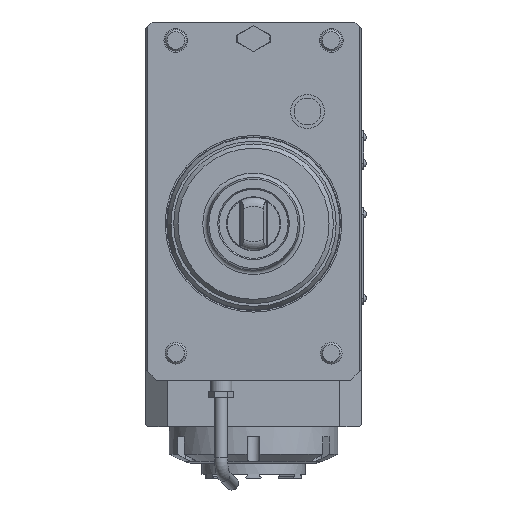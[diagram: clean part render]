
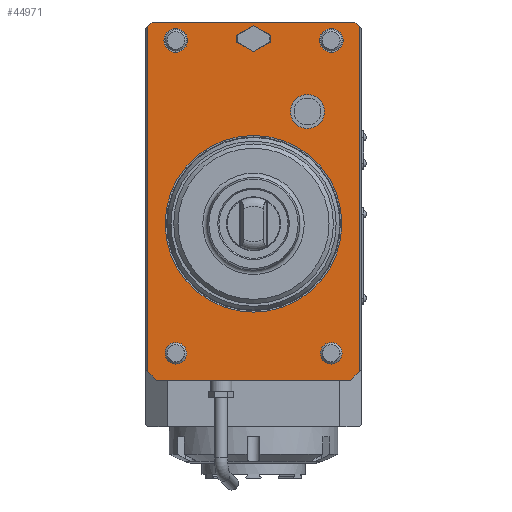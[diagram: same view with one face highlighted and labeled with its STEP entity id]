
A CAD part, left-side view. The second image highlights one B-rep face of the part: STEP entity #44971.
In plain terms, the highlighted planar face has unit normal (-1, 0, 0).
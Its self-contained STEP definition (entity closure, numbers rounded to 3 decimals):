
#20567=VECTOR('',#32208,1.);
#20568=VECTOR('',#32209,1.);
#20569=VECTOR('',#32210,1.);
#20570=VECTOR('',#32211,1.);
#20571=VECTOR('',#32212,1.);
#20572=VECTOR('',#32213,1.);
#20573=VECTOR('',#32214,1.);
#20574=VECTOR('',#32215,1.);
#20575=VECTOR('',#32226,1.);
#20576=VECTOR('',#32227,1.);
#20577=VECTOR('',#32230,1.);
#20578=VECTOR('',#32231,1.);
#21581=LINE('',#35630,#20567);
#21582=LINE('',#35632,#20568);
#21583=LINE('',#35634,#20569);
#21584=LINE('',#35636,#20570);
#21585=LINE('',#35638,#20571);
#21586=LINE('',#35640,#20572);
#21587=LINE('',#35642,#20573);
#21588=LINE('',#35643,#20574);
#21589=LINE('',#35656,#20575);
#21590=LINE('',#35658,#20576);
#21591=LINE('',#35662,#20577);
#21592=LINE('',#35664,#20578);
#22810=PLANE('',#43742);
#23276=ORIENTED_EDGE('',*,*,#28443,.F.);
#23277=ORIENTED_EDGE('',*,*,#28444,.T.);
#23278=ORIENTED_EDGE('',*,*,#28445,.F.);
#23279=ORIENTED_EDGE('',*,*,#28446,.T.);
#23280=ORIENTED_EDGE('',*,*,#28447,.F.);
#23281=ORIENTED_EDGE('',*,*,#28448,.T.);
#23282=ORIENTED_EDGE('',*,*,#28449,.F.);
#23283=ORIENTED_EDGE('',*,*,#28450,.T.);
#23284=ORIENTED_EDGE('',*,*,#28442,.F.);
#23285=ORIENTED_EDGE('',*,*,#28451,.F.);
#23286=ORIENTED_EDGE('',*,*,#28452,.F.);
#23287=ORIENTED_EDGE('',*,*,#28453,.T.);
#23288=ORIENTED_EDGE('',*,*,#28454,.T.);
#23289=ORIENTED_EDGE('',*,*,#28455,.T.);
#23290=ORIENTED_EDGE('',*,*,#28456,.T.);
#23291=ORIENTED_EDGE('',*,*,#28457,.T.);
#23292=ORIENTED_EDGE('',*,*,#28458,.T.);
#23293=ORIENTED_EDGE('',*,*,#28459,.T.);
#23294=ORIENTED_EDGE('',*,*,#28460,.T.);
#23295=ORIENTED_EDGE('',*,*,#28461,.T.);
#26763=CIRCLE('',#43741,40.94);
#26764=CIRCLE('',#43743,5.5);
#26765=CIRCLE('',#43744,5.5);
#26766=CIRCLE('',#43745,4.08);
#26767=CIRCLE('',#43746,4.08);
#26768=CIRCLE('',#43747,7.89);
#26769=CIRCLE('',#43748,8.);
#26770=CIRCLE('',#43749,8.);
#27229=VERTEX_POINT('',#35625);
#27230=VERTEX_POINT('',#35628);
#27231=VERTEX_POINT('',#35629);
#27232=VERTEX_POINT('',#35631);
#27233=VERTEX_POINT('',#35633);
#27234=VERTEX_POINT('',#35635);
#27235=VERTEX_POINT('',#35637);
#27236=VERTEX_POINT('',#35639);
#27237=VERTEX_POINT('',#35641);
#27238=VERTEX_POINT('',#35644);
#27239=VERTEX_POINT('',#35646);
#27240=VERTEX_POINT('',#35648);
#27241=VERTEX_POINT('',#35650);
#27242=VERTEX_POINT('',#35652);
#27243=VERTEX_POINT('',#35654);
#27244=VERTEX_POINT('',#35655);
#27245=VERTEX_POINT('',#35657);
#27246=VERTEX_POINT('',#35659);
#27247=VERTEX_POINT('',#35661);
#27248=VERTEX_POINT('',#35663);
#28442=EDGE_CURVE('',#27229,#27229,#26763,.T.);
#28443=EDGE_CURVE('',#27230,#27231,#21581,.T.);
#28444=EDGE_CURVE('',#27230,#27232,#21582,.T.);
#28445=EDGE_CURVE('',#27233,#27232,#21583,.T.);
#28446=EDGE_CURVE('',#27233,#27234,#21584,.T.);
#28447=EDGE_CURVE('',#27235,#27234,#21585,.T.);
#28448=EDGE_CURVE('',#27235,#27236,#21586,.T.);
#28449=EDGE_CURVE('',#27237,#27236,#21587,.T.);
#28450=EDGE_CURVE('',#27237,#27231,#21588,.T.);
#28451=EDGE_CURVE('',#27238,#27238,#26764,.T.);
#28452=EDGE_CURVE('',#27239,#27239,#26765,.T.);
#28453=EDGE_CURVE('',#27240,#27240,#26766,.T.);
#28454=EDGE_CURVE('',#27241,#27241,#26767,.T.);
#28455=EDGE_CURVE('',#27242,#27242,#26768,.T.);
#28456=EDGE_CURVE('',#27243,#27244,#21589,.T.);
#28457=EDGE_CURVE('',#27244,#27245,#21590,.T.);
#28458=EDGE_CURVE('',#27245,#27246,#26769,.T.);
#28459=EDGE_CURVE('',#27246,#27247,#21591,.T.);
#28460=EDGE_CURVE('',#27247,#27248,#21592,.T.);
#28461=EDGE_CURVE('',#27248,#27243,#26770,.T.);
#30198=EDGE_LOOP('',(#23276,#23277,#23278,#23279,#23280,#23281,#23282,#23283));
#30199=EDGE_LOOP('',(#23284));
#30200=EDGE_LOOP('',(#23285));
#30201=EDGE_LOOP('',(#23286));
#30202=EDGE_LOOP('',(#23287));
#30203=EDGE_LOOP('',(#23288));
#30204=EDGE_LOOP('',(#23289));
#30205=EDGE_LOOP('',(#23290,#23291,#23292,#23293,#23294,#23295));
#31188=FACE_BOUND('',#30198,.T.);
#31189=FACE_BOUND('',#30199,.T.);
#31190=FACE_BOUND('',#30200,.T.);
#31191=FACE_BOUND('',#30201,.T.);
#31192=FACE_BOUND('',#30202,.T.);
#31193=FACE_BOUND('',#30203,.T.);
#31194=FACE_BOUND('',#30204,.T.);
#31195=FACE_BOUND('',#30205,.T.);
#32204=DIRECTION('',(-1.,0.,0.));
#32205=DIRECTION('',(0.,40.94,0.));
#32206=DIRECTION('',(-1.,0.,0.));
#32207=DIRECTION('',(0.,1.,0.));
#32208=DIRECTION('',(0.,0.,-160.));
#32209=DIRECTION('',(0.,2.,2.));
#32210=DIRECTION('',(0.,-94.,0.));
#32211=DIRECTION('',(0.,2.,-2.));
#32212=DIRECTION('',(0.,0.,160.));
#32213=DIRECTION('',(0.,-4.,-4.));
#32214=DIRECTION('',(0.,90.,0.));
#32215=DIRECTION('',(0.,-4.,4.));
#32216=DIRECTION('',(-1.,0.,0.));
#32217=DIRECTION('',(0.,5.5,0.));
#32218=DIRECTION('',(-1.,0.,0.));
#32219=DIRECTION('',(0.,5.5,0.));
#32220=DIRECTION('',(1.,0.,0.));
#32221=DIRECTION('',(0.,4.08,0.));
#32222=DIRECTION('',(1.,0.,0.));
#32223=DIRECTION('',(0.,4.08,0.));
#32224=DIRECTION('',(1.,0.,0.));
#32225=DIRECTION('',(0.,6.833,3.945));
#32226=DIRECTION('',(0.,-7.858,4.537));
#32227=DIRECTION('',(0.,-7.858,-4.537));
#32228=DIRECTION('',(1.,0.,0.));
#32229=DIRECTION('',(0.,6.928,4.));
#32230=DIRECTION('',(0.,7.858,-4.537));
#32231=DIRECTION('',(0.,7.858,4.537));
#32232=DIRECTION('',(1.,0.,0.));
#32233=DIRECTION('',(0.,6.928,4.));
#35625=CARTESIAN_POINT('',(0.,40.94,0.));
#35626=CARTESIAN_POINT('',(0.,0.,0.));
#35627=CARTESIAN_POINT('',(0.,-49.,91.5));
#35628=CARTESIAN_POINT('',(0.,-49.,91.5));
#35629=CARTESIAN_POINT('',(0.,-49.,-68.5));
#35630=CARTESIAN_POINT('',(0.,-49.,91.5));
#35631=CARTESIAN_POINT('',(0.,-47.,93.5));
#35632=CARTESIAN_POINT('',(0.,-49.,91.5));
#35633=CARTESIAN_POINT('',(0.,47.,93.5));
#35634=CARTESIAN_POINT('',(0.,47.,93.5));
#35635=CARTESIAN_POINT('',(0.,49.,91.5));
#35636=CARTESIAN_POINT('',(0.,47.,93.5));
#35637=CARTESIAN_POINT('',(0.,49.,-68.5));
#35638=CARTESIAN_POINT('',(0.,49.,-68.5));
#35639=CARTESIAN_POINT('',(0.,45.,-72.5));
#35640=CARTESIAN_POINT('',(0.,49.,-68.5));
#35641=CARTESIAN_POINT('',(0.,-45.,-72.5));
#35642=CARTESIAN_POINT('',(0.,-45.,-72.5));
#35643=CARTESIAN_POINT('',(0.,-45.,-72.5));
#35644=CARTESIAN_POINT('',(0.,-30.5,85.));
#35645=CARTESIAN_POINT('',(0.,-36.,85.));
#35646=CARTESIAN_POINT('',(0.,41.5,85.));
#35647=CARTESIAN_POINT('',(0.,36.,85.));
#35648=CARTESIAN_POINT('',(0.,40.08,-60.));
#35649=CARTESIAN_POINT('',(0.,36.,-60.));
#35650=CARTESIAN_POINT('',(0.,-31.92,-60.));
#35651=CARTESIAN_POINT('',(0.,-36.,-60.));
#35652=CARTESIAN_POINT('',(0.,-18.167,55.945));
#35653=CARTESIAN_POINT('',(0.,-25.,52.));
#35654=CARTESIAN_POINT('',(0.,7.858,87.3));
#35655=CARTESIAN_POINT('',(0.,0.,91.837));
#35656=CARTESIAN_POINT('',(0.,7.858,87.3));
#35657=CARTESIAN_POINT('',(0.,-7.858,87.3));
#35658=CARTESIAN_POINT('',(0.,0.,91.837));
#35659=CARTESIAN_POINT('',(0.,-7.858,84.3));
#35660=CARTESIAN_POINT('',(0.,0.,85.8));
#35661=CARTESIAN_POINT('',(0.,0.,79.763));
#35662=CARTESIAN_POINT('',(0.,-7.858,84.3));
#35663=CARTESIAN_POINT('',(0.,7.858,84.3));
#35664=CARTESIAN_POINT('',(0.,0.,79.763));
#35665=CARTESIAN_POINT('',(0.,0.,85.8));
#43741=AXIS2_PLACEMENT_3D('',#35626,#32204,#32205);
#43742=AXIS2_PLACEMENT_3D('',#35627,#32206,#32207);
#43743=AXIS2_PLACEMENT_3D('',#35645,#32216,#32217);
#43744=AXIS2_PLACEMENT_3D('',#35647,#32218,#32219);
#43745=AXIS2_PLACEMENT_3D('',#35649,#32220,#32221);
#43746=AXIS2_PLACEMENT_3D('',#35651,#32222,#32223);
#43747=AXIS2_PLACEMENT_3D('',#35653,#32224,#32225);
#43748=AXIS2_PLACEMENT_3D('',#35660,#32228,#32229);
#43749=AXIS2_PLACEMENT_3D('',#35665,#32232,#32233);
#44971=ADVANCED_FACE('',(#31188,#31189,#31190,#31191,#31192,#31193,#31194,
#31195),#22810,.T.);
